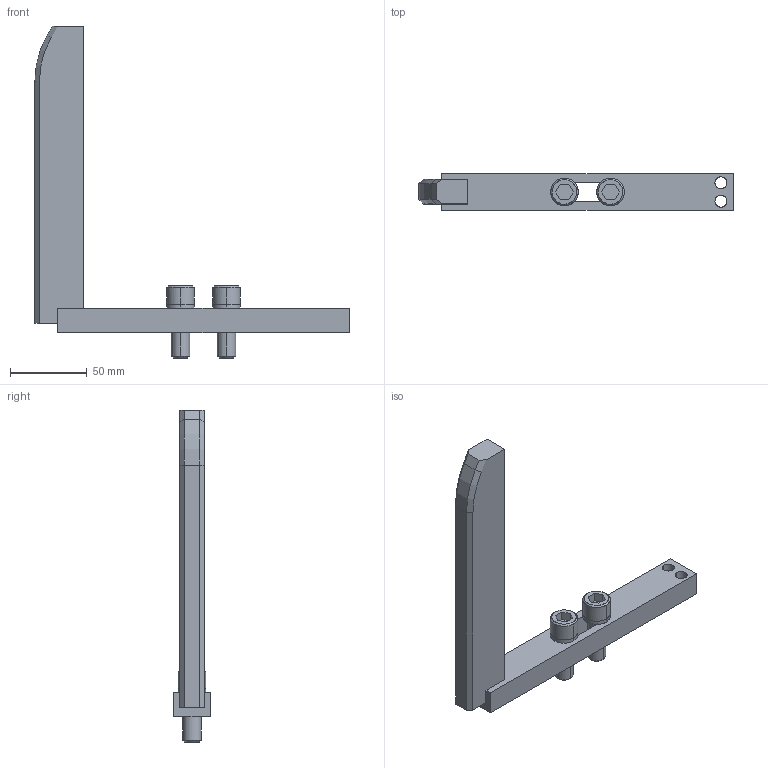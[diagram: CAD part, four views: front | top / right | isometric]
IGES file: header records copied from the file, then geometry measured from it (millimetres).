
Global section: file name: E:\UnigraphicsGraphicData\MISUMI_PRESS-PARTS\IGES\3d_ngnx-200-20-a190-b80-m12_01570_r00.igs; native system: NX V5.0; preprocessor: UGS NX IGES V5.0; author: MISUMI; date: 20110105.162105; units: millimetre
Bounding box: 205 x 24 x 216.5 mm (x, y, z)
Surface area: 42818.9 mm2 (no closed solid volume)
Topology: 0 solids, 0 shells, 100 faces, 630 edges, 630 vertices
Faces by surface type: bspline 100
